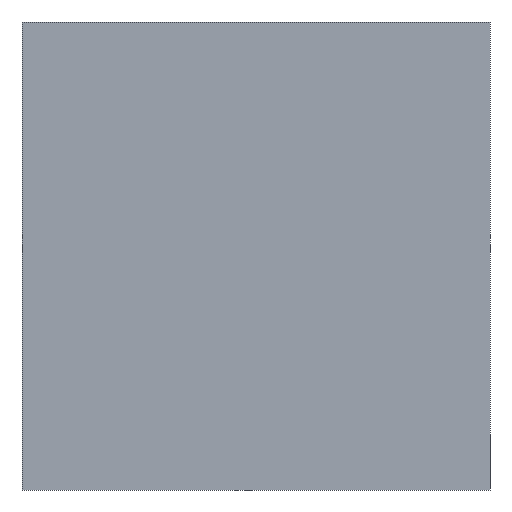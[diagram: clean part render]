
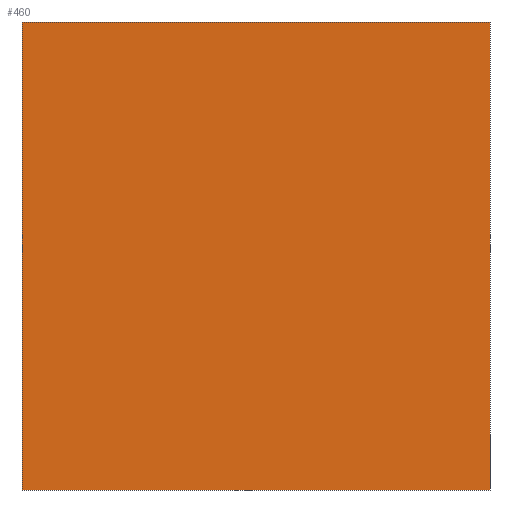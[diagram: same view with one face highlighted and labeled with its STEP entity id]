
A CAD part, front view. The second image highlights one B-rep face of the part: STEP entity #460.
In plain terms, the highlighted planar face has unit normal (0, -1, 0).
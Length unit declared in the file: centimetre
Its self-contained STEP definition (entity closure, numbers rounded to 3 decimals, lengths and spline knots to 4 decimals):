
#29 = CARTESIAN_POINT ( 'NONE',  ( 0., 0., 1000. ) ) ;
#39 = EDGE_CURVE ( 'NONE', #103, #470, #146, .T. ) ;
#53 = EDGE_CURVE ( 'NONE', #513, #103, #530, .T. ) ;
#60 = VECTOR ( 'NONE', #82, 100. ) ;
#63 = DIRECTION ( 'NONE',  ( 0., 0., -1. ) ) ;
#68 = EDGE_CURVE ( 'NONE', #219, #470, #477, .T. ) ;
#80 = VECTOR ( 'NONE', #63, 100. ) ;
#82 = DIRECTION ( 'NONE',  ( 1., 0., 0. ) ) ;
#103 = VERTEX_POINT ( 'NONE', #395 ) ;
#146 = LINE ( 'NONE', #156, #60 ) ;
#156 = CARTESIAN_POINT ( 'NONE',  ( 0., 0., 0. ) ) ;
#167 = DIRECTION ( 'NONE',  ( 0., 0., 1. ) ) ;
#205 = DIRECTION ( 'NONE',  ( 1., 0., 0. ) ) ;
#210 = EDGE_LOOP ( 'NONE', ( #382, #216, #306, #509 ) ) ;
#216 = ORIENTED_EDGE ( 'NONE', *, *, #68, .F. ) ;
#219 = VERTEX_POINT ( 'NONE', #461 ) ;
#240 = CARTESIAN_POINT ( 'NONE',  ( 1000., 0., 1000. ) ) ;
#252 = FACE_OUTER_BOUND ( 'NONE', #210, .T. ) ;
#279 = CARTESIAN_POINT ( 'NONE',  ( 1000., 0., 0. ) ) ;
#306 = ORIENTED_EDGE ( 'NONE', *, *, #468, .F. ) ;
#325 = CARTESIAN_POINT ( 'NONE',  ( 0., 0., 1000. ) ) ;
#352 = DIRECTION ( 'NONE',  ( 0., 0., -1. ) ) ;
#360 = PLANE ( 'NONE',  #401 ) ;
#364 = CARTESIAN_POINT ( 'NONE',  ( 0., 0., 1000. ) ) ;
#367 = VECTOR ( 'NONE', #352, 100. ) ;
#382 = ORIENTED_EDGE ( 'NONE', *, *, #39, .T. ) ;
#392 = CARTESIAN_POINT ( 'NONE',  ( 0., 0., 1000. ) ) ;
#395 = CARTESIAN_POINT ( 'NONE',  ( 0., 0., 0. ) ) ;
#401 = AXIS2_PLACEMENT_3D ( 'NONE', #325, #444, #167 ) ;
#444 = DIRECTION ( 'NONE',  ( 0., 1., 0. ) ) ;
#460 = ADVANCED_FACE ( 'NONE', ( #252 ), #360, .F. ) ;
#461 = CARTESIAN_POINT ( 'NONE',  ( 1000., 0., 1000. ) ) ;
#468 = EDGE_CURVE ( 'NONE', #513, #219, #529, .T. ) ;
#470 = VERTEX_POINT ( 'NONE', #279 ) ;
#477 = LINE ( 'NONE', #240, #80 ) ;
#481 = VECTOR ( 'NONE', #205, 100. ) ;
#509 = ORIENTED_EDGE ( 'NONE', *, *, #53, .T. ) ;
#513 = VERTEX_POINT ( 'NONE', #364 ) ;
#529 = LINE ( 'NONE', #29, #481 ) ;
#530 = LINE ( 'NONE', #392, #367 ) ;
